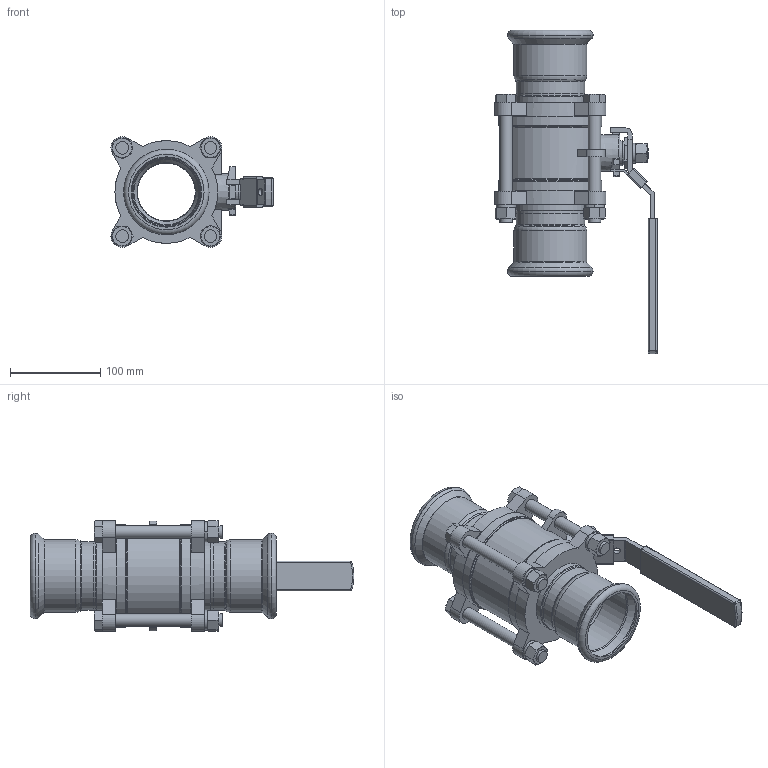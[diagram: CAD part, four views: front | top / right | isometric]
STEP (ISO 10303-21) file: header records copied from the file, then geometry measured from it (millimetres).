
FILE_DESCRIPTION(('STEP AP214'),'1');
FILE_NAME('2-1-2.stp','2025-03-26T07:37:29',(' '),(' '),'Spatial InterOp 3D',' ',' ');
FILE_SCHEMA(('AUTOMOTIVE_DESIGN { 1 0 10303 214 1 1 1 1 }'));
Length unit declared in the file: millimetre
Products named in the file (20): 3PC卡压球阀2-1-2; 填料; 阀杆; 小片; 球体; 半截接头; 阀体; 阀盖; 阀座; 垫圈 ： 单圈弹簧 - M14.0 x 3.6; 螺母 ： 标准 - M14.0 x 12.8; 螺栓 ： 六角头 - M14.0 x 133.0; 锁块; 手柄套; 手柄; 压紧螺母
Assembly tree (28 placements, depth 2):
  3PC卡压球阀2-1-2
    填料
    阀杆
    小片
    球体
    半截接头
    阀体
    阀盖
    半截接头
    阀盖
    阀座
    垫圈 ： 单圈弹簧 - M14.0 x 3.6  x4
    螺母 ： 标准 - M14.0 x 12.8  x4
    螺栓 ： 六角头 - M14.0 x 133.0  x4
    垫圈 ： 单圈弹簧 - M14.0 x 3.6
    螺母 ： 标准 - M14.0 x 12.8
    锁块
    手柄套
    手柄
    压紧螺母
Bounding box: 179.87 x 359 x 122.93 mm (x, y, z)
Volume: 1034294.9 mm3; surface area: 382200.1 mm2
Topology: 29 solids, 29 shells, 529 faces, 1204 edges, 745 vertices
Faces by surface type: plane 252, cone 122, cylinder 114, torus 25, bspline 10, sphere 6
Full cylindrical faces by diameter (mm): 7.5 x1, 14 x9, 14.5 x10, 20 x2, 20.2 x1, 20.6 x1, 21 x1, 25 x2, 26 x2, 26.3 x1, 26.4 x1, 28 x1, 64 x1, 65 x4, 72.1 x4, 76.1 x4, 76.7 x2, 78 x4, 80.7 x2, 94.7 x2, 99 x1, 100.5 x4, 104.5 x4, 111 x1, 114 x4
Entity records: 15200 total; most frequent: CARTESIAN_POINT 2933, DIRECTION 1855, ORIENTED_EDGE 1590, EDGE_CURVE 795, AXIS2_PLACEMENT_3D 756, EDGE_LOOP 577, VERTEX_POINT 566, FACE_OUTER_BOUND 483
